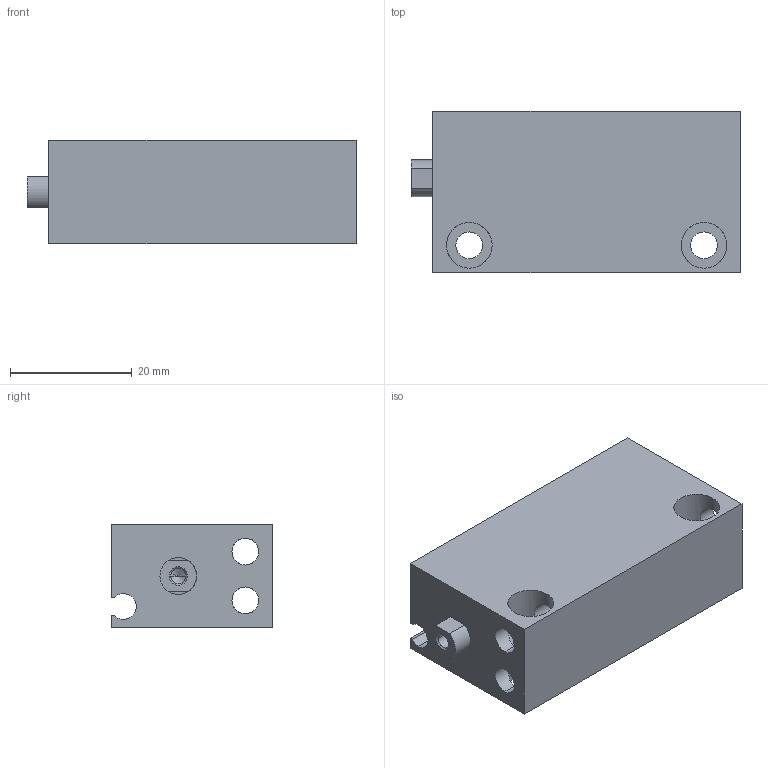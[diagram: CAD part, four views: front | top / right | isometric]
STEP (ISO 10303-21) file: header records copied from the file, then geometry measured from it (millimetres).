
FILE_DESCRIPTION (( 'STEP AP203' ), '1' );
FILE_NAME ('CLJB12-35.STEP', '2020-07-30T18:50:43', ( '' ), ( '' ), 'SwSTEP 2.0', 'SolidWorks 2019', '' );
FILE_SCHEMA (( 'CONFIG_CONTROL_DESIGN' ));
Length unit declared in the file: millimetre
Products named in the file (1): CLJB12-35
Bounding box: 54 x 26.5 x 17 mm (x, y, z)
Volume: 16651.7 mm3; surface area: 10136.9 mm2
Topology: 2 solids, 2 shells, 75 faces, 188 edges, 113 vertices
Faces by surface type: cylinder 41, plane 22, cone 12
Entity records: 3119 total; most frequent: CARTESIAN_POINT 1223, DIRECTION 394, ORIENTED_EDGE 364, EDGE_CURVE 182, AXIS2_PLACEMENT_3D 152, VERTEX_POINT 113, EDGE_LOOP 93, VECTOR 90
